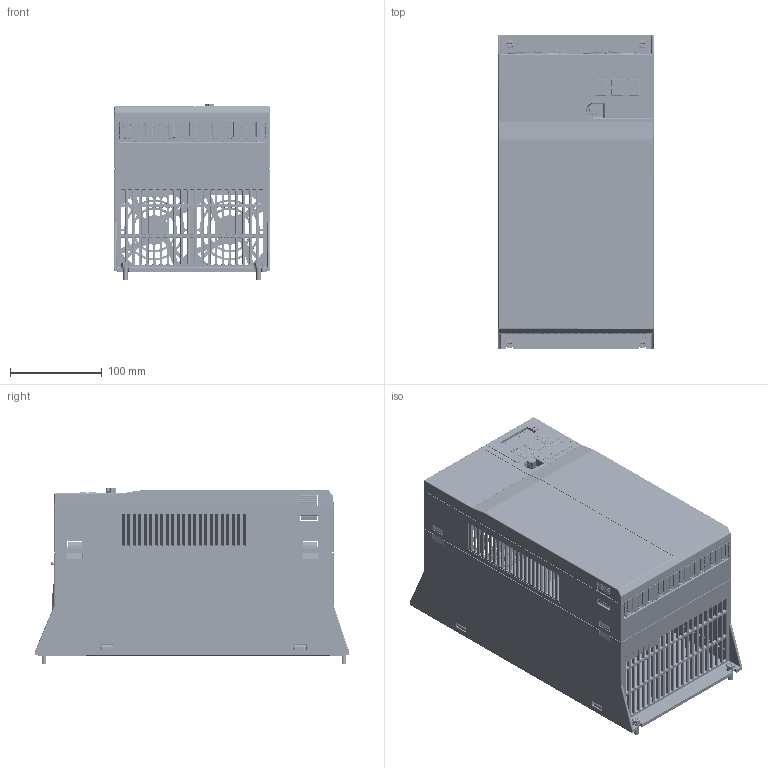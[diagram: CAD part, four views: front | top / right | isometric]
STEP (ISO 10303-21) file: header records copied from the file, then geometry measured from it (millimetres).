
FILE_DESCRIPTION(/* description */ (''),/* implementation_level */ '2;1');
FILE_NAME(/* name */ 'C:\Users\U390257\OneDrive - Danfoss\Documents\Работа\Текущие задачи\2022.04.26 Veichi 3D\Готовые модели\ac10-t3-015_022_3d\AC10-t3-015_022_3d.stp',/* time_stamp */ '2022-04-27T12:01:46+03:00',/* author */ ('U390257'),/* organization */ (''),/* preprocessor_version */ 'ST-DEVELOPER v18.1',/* originating_system */ 'Autodesk Inventor 2020',/* authorisation */ '');
FILE_SCHEMA (('AUTOMOTIVE_DESIGN { 1 0 10303 214 3 1 1 }'));
Products named in the file (10): AC10-t3-015_022_3d; ac10-t3-015_022_3d_1; VEDAVFD; display; display_1; knopka_prg; knopka_ust_pusk; knopka_ust_stop; knopka_ust_vybor; knopka_up
Assembly tree (10 placements, depth 3):
  AC10-t3-015_022_3d
    ac10-t3-015_022_3d_1
    VEDAVFD
    display
      display_1
      knopka_prg
      knopka_up  x2
      knopka_ust_pusk
      knopka_ust_stop
      knopka_ust_vybor
Bounding box: 170.2 x 342.4 x 192.3 mm (x, y, z)
Volume: 846207.7 mm3; surface area: 824615 mm2
Topology: 126 solids, 126 shells, 11750 faces, 31000 edges, 19822 vertices
Faces by surface type: plane 7060, cylinder 2171, bspline 1947, cone 322, torus 183, sphere 67
Full cylindrical faces by diameter (mm): 0.5 x30, 0.7 x1, 1 x1, 1.2 x4, 1.3 x1, 1.5 x6, 1.7 x1, 1.8 x6, 2 x1, 2.1 x1, 2.4 x2, 2.5 x1, 3 x6, 3.8 x22, 4 x2, 4.5 x8, 5 x13, 6.6 x1, 7 x3, 8 x1, 8.75 x4, 10 x4, 30 x2
Entity records: 427872 total; most frequent: CARTESIAN_POINT 138581, ORIENTED_EDGE 61842, DIRECTION 54125, EDGE_CURVE 30921, LINE 21447, VECTOR 21447, VERTEX_POINT 19791, AXIS2_PLACEMENT_3D 16339
